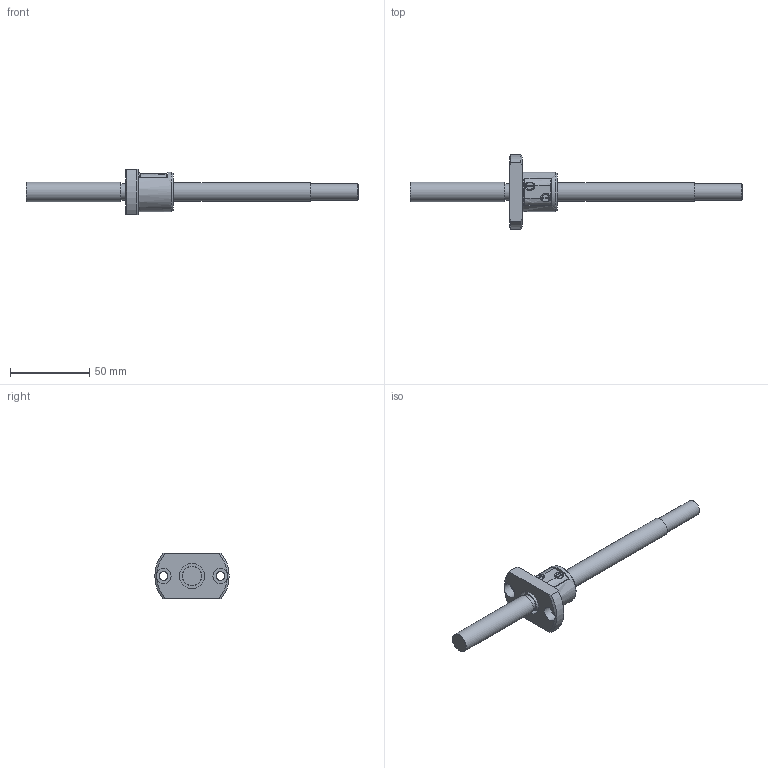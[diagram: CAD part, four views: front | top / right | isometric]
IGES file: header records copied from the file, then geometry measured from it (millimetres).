
Start section: Data from Parasolid IGES Translator 26.0.171, Copyright(c) 2006 Siemens PLM Software. All Rights Reserved.
Global section: file name: MBF1202-3.7RRGT+210LC3A(0).igs; native system: By Siemens PLM Incorporated; preprocessor: XPlus GENERIC/IGES 26.0.171; author: Noname; organization: Noname; date: 20240715.080328; units: millimetre
Bounding box: 210 x 47 x 29 mm (x, y, z)
Surface area: 14824.6 mm2 (no closed solid volume)
Topology: 0 solids, 0 shells, 67 faces, 328 edges, 308 vertices
Faces by surface type: extrusion 34, revolution 33
